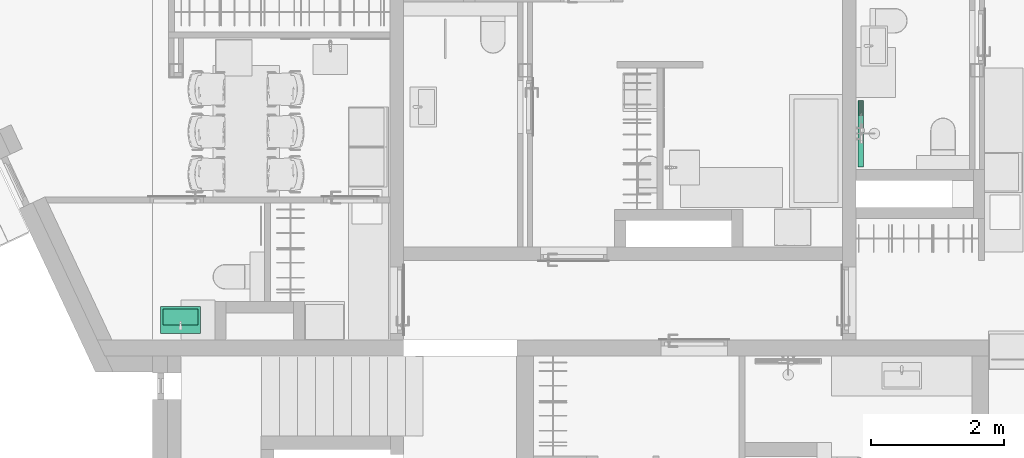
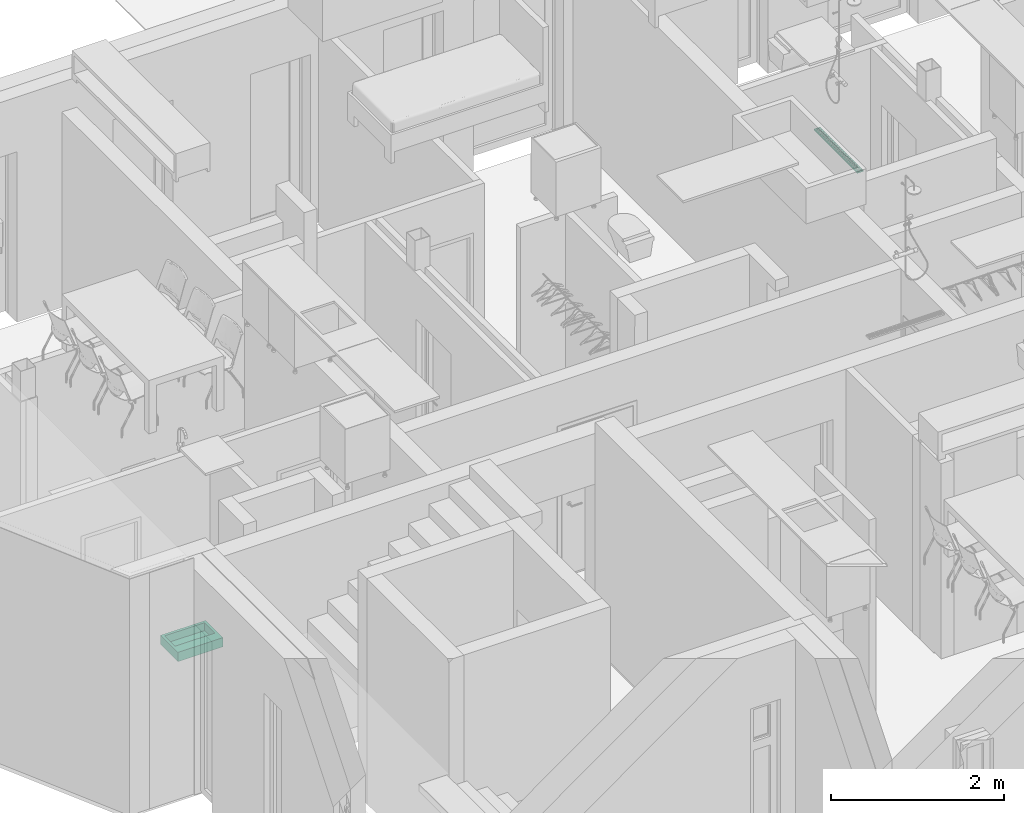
# One storey, part 17 of 68: 2 flow terminals.
"""IFC2X3 building model written with IfcOpenShell, lengths in millimetres."""

from ifc_helpers import new_model, entity, si_unit, converted_unit, direction, frame, origin, place, context, subcontext, project, spatial, faceted_brep, source, transform, mapped, material, type_object, type_shapes, element, save


model = new_model("IFC2X3")

# Units and contexts
model_context = context("Model", 3, precision=0.01, world=origin(), true_north=direction((6.123233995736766e-17, 1.0)))
plan_context = context("Plan", 3, precision=0.01, world=origin(), true_north=direction((6.123233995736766e-17, 1.0)))
body_context = subcontext(model_context, "Body", "Model", "MODEL_VIEW")
ifc_project = project(units=[si_unit("LENGTHUNIT", "METRE", prefix="MILLI"), converted_unit("PLANEANGLEUNIT", "DEGREE", entity("IfcPlaneAngleMeasure", 0.017453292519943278), si_unit("PLANEANGLEUNIT", "RADIAN"), dimensions=[0, 0, 0, 0, 0, 0, 0]), si_unit("AREAUNIT", "SQUARE_METRE")], contexts=[model_context, plan_context])

# Site, building, storey, space
site_placement = place(None, origin())
site = spatial("IfcSite", under=ifc_project, at=site_placement, Name="Default", CompositionType="ELEMENT")
building_placement = place(site_placement, origin())
building = spatial("IfcBuilding", under=site, at=building_placement, CompositionType="ELEMENT")
storey_placement = place(building_placement, frame((0.0, 0.0, 6295.0)))
storey = spatial("IfcBuildingStorey", under=building, at=storey_placement, Name="3K", CompositionType="ELEMENT", Elevation=6294.999999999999)
space_1_placement = place(storey_placement, origin())
space_1 = spatial("IfcSpace", under=storey, at=space_1_placement, Name="3-7.4", CompositionType="ELEMENT", InteriorOrExteriorSpace="INTERNAL")

# Flow terminal
ifc_material = material(Name="<Unnamed>")
distribution_element_type_1 = type_object("IfcDistributionElementType", Name="HR_Plumbing-fixtures_Drain_Channel_Generic_v1:Default", material=ifc_material)
shared_shape_1 = source(origin(), body_context, "Body", "Brep", [
    faceted_brep([(500.0, 80.0, 0.0), (-500.0, 80.0, 0.0), (-500.0, 0.0, 0.0), (500.0, 0.0, 0.0), (20.0, 70.0, 0.0), (25.0, 70.0, 0.0), (25.0, 10.0, 0.0), (20.0, 10.0, 0.0), (35.0, 70.0, 0.0), (40.0, 70.0, 0.0), (40.0, 10.0, 0.0), (35.0, 10.0, 0.0), (50.0, 70.0, 0.0), (55.0, 70.0, 0.0), (55.0, 10.0, 0.0), (50.0, 10.0, 0.0), (65.0, 70.0, 0.0), (70.0, 70.0, 0.0), (70.0, 10.0, 0.0), (65.0, 10.0, 0.0), (80.0, 70.0, 0.0), (85.0, 70.0, 0.0), (85.0, 10.0, 0.0), (80.0, 10.0, 0.0), (95.0, 70.0, 0.0), (100.0, 70.0, 0.0), (100.0, 10.0, 0.0), (95.0, 10.0, 0.0), (110.0, 70.0, 0.0), (115.0, 70.0, 0.0), (115.0, 10.0, 0.0), (110.0, 10.0, 0.0), (125.0, 70.0, 0.0), (130.0, 70.0, 0.0), (130.0, 10.0, 0.0), (125.0, 10.0, 0.0), (140.0, 70.0, 0.0), (145.0, 70.0, 0.0), (145.0, 10.0, 0.0), (140.0, 10.0, 0.0), (155.0, 70.0, 0.0), (160.0, 70.0, 0.0), (160.0, 10.0, 0.0), (155.0, 10.0, 0.0), (170.0, 70.0, 0.0), (175.0, 70.0, 0.0), (175.0, 10.0, 0.0), (170.0, 10.0, 0.0), (185.0, 70.0, 0.0), (190.0, 70.0, 0.0), (190.0, 10.0, 0.0), (185.0, 10.0, 0.0), (200.0, 70.0, 0.0), (205.0, 70.0, 0.0), (205.0, 10.0, 0.0), (200.0, 10.0, 0.0), (215.0, 70.0, 0.0), (220.0, 70.0, 0.0), (220.0, 10.0, 0.0), (215.0, 10.0, 0.0), (230.0, 70.0, 0.0), (235.0, 70.0, 0.0), (235.0, 10.0, 0.0), (230.0, 10.0, 0.0), (245.0, 70.0, 0.0), (250.0, 70.0, 0.0), (250.0, 10.0, 0.0), (245.0, 10.0, 0.0), (260.0, 70.0, 0.0), (265.0, 70.0, 0.0), (265.0, 10.0, 0.0), (260.0, 10.0, 0.0), (275.0, 70.0, 0.0), (280.0, 70.0, 0.0), (280.0, 10.0, 0.0), (275.0, 10.0, 0.0), (290.0, 70.0, 0.0), (295.0, 70.0, 0.0), (295.0, 10.0, 0.0), (290.0, 10.0, 0.0), (305.0, 70.0, 0.0), (310.0, 70.0, 0.0), (310.0, 10.0, 0.0), (305.0, 10.0, 0.0), (320.0, 70.0, 0.0), (325.0, 70.0, 0.0), (325.0, 10.0, 0.0), (320.0, 10.0, 0.0), (335.0, 70.0, 0.0), (340.0, 70.0, 0.0), (340.0, 10.0, 0.0), (335.0, 10.0, 0.0), (350.0, 70.0, 0.0), (355.0, 70.0, 0.0), (355.0, 10.0, 0.0), (350.0, 10.0, 0.0), (365.0, 70.0, 0.0), (370.0, 70.0, 0.0), (370.0, 10.0, 0.0), (365.0, 10.0, 0.0), (380.0, 70.0, 0.0), (385.0, 70.0, 0.0), (385.0, 10.0, 0.0), (380.0, 10.0, 0.0), (-25.0, 70.0, 0.0), (-20.0, 70.0, 0.0), (-20.0, 10.0, 0.0), (-25.0, 10.0, 0.0), (-40.0, 70.0, 0.0), (-35.0, 70.0, 0.0), (-35.0, 10.0, 0.0), (-40.0, 10.0, 0.0), (-55.0, 70.0, 0.0), (-50.0, 70.0, 0.0), (-50.0, 10.0, 0.0), (-55.0, 10.0, 0.0), (-70.0, 70.0, 0.0), (-65.0, 70.0, 0.0), (-65.0, 10.0, 0.0), (-70.0, 10.0, 0.0), (-85.0, 70.0, 0.0), (-80.0, 70.0, 0.0), (-80.0, 10.0, 0.0), (-85.0, 10.0, 0.0), (-100.0, 70.0, 0.0), (-95.0, 70.0, 0.0), (-95.0, 10.0, 0.0), (-100.0, 10.0, 0.0), (-115.0, 70.0, 0.0), (-110.0, 70.0, 0.0), (-110.0, 10.0, 0.0), (-115.0, 10.0, 0.0), (-130.0, 70.0, 0.0), (-125.0, 70.0, 0.0), (-125.0, 10.0, 0.0), (-130.0, 10.0, 0.0), (-145.0, 70.0, 0.0), (-140.0, 70.0, 0.0), (-140.0, 10.0, 0.0), (-145.0, 10.0, 0.0), (-160.0, 70.0, 0.0), (-155.0, 70.0, 0.0), (-155.0, 10.0, 0.0), (-160.0, 10.0, 0.0), (-175.0, 70.0, 0.0), (-170.0, 70.0, 0.0), (-170.0, 10.0, 0.0), (-175.0, 10.0, 0.0), (-190.0, 70.0, 0.0), (-185.0, 70.0, 0.0), (-185.0, 10.0, 0.0), (-190.0, 10.0, 0.0), (-205.0, 70.0, 0.0), (-200.0, 70.0, 0.0), (-200.0, 10.0, 0.0), (-205.0, 10.0, 0.0), (-220.0, 70.0, 0.0), (-215.0, 70.0, 0.0), (-215.0, 10.0, 0.0), (-220.0, 10.0, 0.0), (-235.0, 70.0, 0.0), (-230.0, 70.0, 0.0), (-230.0, 10.0, 0.0), (-235.0, 10.0, 0.0), (-250.0, 70.0, 0.0), (-245.0, 70.0, 0.0), (-245.0, 10.0, 0.0), (-250.0, 10.0, 0.0), (-265.0, 70.0, 0.0), (-260.0, 70.0, 0.0), (-260.0, 10.0, 0.0), (-265.0, 10.0, 0.0), (-280.0, 70.0, 0.0), (-275.0, 70.0, 0.0), (-275.0, 10.0, 0.0), (-280.0, 10.0, 0.0), (-295.0, 70.0, 0.0), (-290.0, 70.0, 0.0), (-290.0, 10.0, 0.0), (-295.0, 10.0, 0.0), (-310.0, 70.0, 0.0), (-305.0, 70.0, 0.0), (-305.0, 10.0, 0.0), (-310.0, 10.0, 0.0), (-325.0, 70.0, 0.0), (-320.0, 70.0, 0.0), (-320.0, 10.0, 0.0), (-325.0, 10.0, 0.0), (-340.0, 70.0, 0.0), (-335.0, 70.0, 0.0), (-335.0, 10.0, 0.0), (-340.0, 10.0, 0.0), (-355.0, 70.0, 0.0), (-350.0, 70.0, 0.0), (-350.0, 10.0, 0.0), (-355.0, 10.0, 0.0), (-370.0, 70.0, 0.0), (-365.0, 70.0, 0.0), (-365.0, 10.0, 0.0), (-370.0, 10.0, 0.0), (-385.0, 70.0, 0.0), (-380.0, 70.0, 0.0), (-380.0, 10.0, 0.0), (-385.0, 10.0, 0.0), (395.0, 70.0, 0.0), (400.0, 70.0, 0.0), (400.0, 10.0, 0.0), (395.0, 10.0, 0.0), (410.0, 70.0, 0.0), (415.0, 70.0, 0.0), (415.0, 10.0, 0.0), (410.0, 10.0, 0.0), (425.0, 70.0, 0.0), (430.0, 70.0, 0.0), (430.0, 10.0, 0.0), (425.0, 10.0, 0.0), (440.0, 70.0, 0.0), (445.0, 70.0, 0.0), (445.0, 10.0, 0.0), (440.0, 10.0, 0.0), (455.0, 70.0, 0.0), (460.0, 70.0, 0.0), (460.0, 10.0, 0.0), (455.0, 10.0, 0.0), (470.0, 70.0, 0.0), (475.0, 70.0, 0.0), (475.0, 10.0, 0.0), (470.0, 10.0, 0.0), (485.0, 70.0, 0.0), (490.0, 70.0, 0.0), (490.0, 10.0, 0.0), (485.0, 10.0, 0.0), (-400.0, 70.0, 0.0), (-395.0, 70.0, 0.0), (-395.0, 10.0, 0.0), (-400.0, 10.0, 0.0), (-415.0, 70.0, 0.0), (-410.0, 70.0, 0.0), (-410.0, 10.0, 0.0), (-415.0, 10.0, 0.0), (-430.0, 70.0, 0.0), (-425.0, 70.0, 0.0), (-425.0, 10.0, 0.0), (-430.0, 10.0, 0.0), (-445.0, 70.0, 0.0), (-440.0, 70.0, 0.0), (-440.0, 10.0, 0.0), (-445.0, 10.0, 0.0), (-460.0, 70.0, 0.0), (-455.0, 70.0, 0.0), (-455.0, 10.0, 0.0), (-460.0, 10.0, 0.0), (-475.0, 70.0, 0.0), (-470.0, 70.0, 0.0), (-470.0, 10.0, 0.0), (-475.0, 10.0, 0.0), (-490.0, 70.0, 0.0), (-485.0, 70.0, 0.0), (-485.0, 10.0, 0.0), (-490.0, 10.0, 0.0), (-10.0, 70.0, 0.0), (-5.0, 70.0, 0.0), (-5.0, 10.0, 0.0), (-10.0, 10.0, 0.0), (5.0, 70.0, 0.0), (10.0, 70.0, 0.0), (10.0, 10.0, 0.0), (5.0, 10.0, 0.0), (-500.0, 80.0, -20.0), (500.0, 80.0, -20.0), (500.0, 0.0, -20.0), (-500.0, 0.0, -20.0), (498.5000000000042, 78.500000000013, -20.0), (-498.49999999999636, 78.500000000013, -20.0), (-498.49999999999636, 1.5000000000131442, -20.0), (498.5000000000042, 1.5000000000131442, -20.0), (498.5000000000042, 78.500000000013, -1.5000000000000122), (498.5000000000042, 1.5000000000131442, -1.5000000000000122), (-498.49999999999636, 1.5000000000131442, -1.5000000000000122), (-498.49999999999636, 78.500000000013, -1.5000000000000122), (25.0, 70.0, -1.5000000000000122), (20.0, 70.0, -1.5000000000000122), (20.0, 10.0, -1.5000000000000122), (25.0, 10.0, -1.5000000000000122), (40.0, 70.0, -1.5000000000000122), (35.0, 70.0, -1.5000000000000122), (35.0, 10.0, -1.5000000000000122), (40.0, 10.0, -1.5000000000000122), (55.0, 70.0, -1.5000000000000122), (50.0, 70.0, -1.5000000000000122), (50.0, 10.0, -1.5000000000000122), (55.0, 10.0, -1.5000000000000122), (70.0, 70.0, -1.5000000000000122), (65.0, 70.0, -1.5000000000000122), (65.0, 10.0, -1.5000000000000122), (70.0, 10.0, -1.5000000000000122), (85.0, 70.0, -1.5000000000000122), (80.0, 70.0, -1.5000000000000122), (80.0, 10.0, -1.5000000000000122), (85.0, 10.0, -1.5000000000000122), (100.0, 70.0, -1.5000000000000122), (95.0, 70.0, -1.5000000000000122), (95.0, 10.0, -1.5000000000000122), (100.0, 10.0, -1.5000000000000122), (115.0, 70.0, -1.5000000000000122), (110.0, 70.0, -1.5000000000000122), (110.0, 10.0, -1.5000000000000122), (115.0, 10.0, -1.5000000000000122), (130.0, 70.0, -1.5000000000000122), (125.0, 70.0, -1.5000000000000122), (125.0, 10.0, -1.5000000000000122), (130.0, 10.0, -1.5000000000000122), (145.0, 70.0, -1.5000000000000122), (140.0, 70.0, -1.5000000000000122), (140.0, 10.0, -1.5000000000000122), (145.0, 10.0, -1.5000000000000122), (160.0, 70.0, -1.5000000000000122), (155.0, 70.0, -1.5000000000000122), (155.0, 10.0, -1.5000000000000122), (160.0, 10.0, -1.5000000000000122), (175.0, 70.0, -1.5000000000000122), (170.0, 70.0, -1.5000000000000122), (170.0, 10.0, -1.5000000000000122), (175.0, 10.0, -1.5000000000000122), (190.0, 70.0, -1.5000000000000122), (185.0, 70.0, -1.5000000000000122), (185.0, 10.0, -1.5000000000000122), (190.0, 10.0, -1.5000000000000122), (205.0, 70.0, -1.5000000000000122), (200.0, 70.0, -1.5000000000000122), (200.0, 10.0, -1.5000000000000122), (205.0, 10.0, -1.5000000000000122), (220.0, 70.0, -1.5000000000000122), (215.0, 70.0, -1.5000000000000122), (215.0, 10.0, -1.5000000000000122), (220.0, 10.0, -1.5000000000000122), (235.0, 70.0, -1.5000000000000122), (230.0, 70.0, -1.5000000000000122), (230.0, 10.0, -1.5000000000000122), (235.0, 10.0, -1.5000000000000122), (250.0, 70.0, -1.5000000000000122), (245.0, 70.0, -1.5000000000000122), (245.0, 10.0, -1.5000000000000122), (250.0, 10.0, -1.5000000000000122), (265.0, 70.0, -1.5000000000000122), (260.0, 70.0, -1.5000000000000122), (260.0, 10.0, -1.5000000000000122), (265.0, 10.0, -1.5000000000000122), (280.0, 70.0, -1.5000000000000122), (275.0, 70.0, -1.5000000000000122), (275.0, 10.0, -1.5000000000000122), (280.0, 10.0, -1.5000000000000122), (295.0, 70.0, -1.5000000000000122), (290.0, 70.0, -1.5000000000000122), (290.0, 10.0, -1.5000000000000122), (295.0, 10.0, -1.5000000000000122), (310.0, 70.0, -1.5000000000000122), (305.0, 70.0, -1.5000000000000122), (305.0, 10.0, -1.5000000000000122), (310.0, 10.0, -1.5000000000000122), (325.0, 70.0, -1.5000000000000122), (320.0, 70.0, -1.5000000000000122), (320.0, 10.0, -1.5000000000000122), (325.0, 10.0, -1.5000000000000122), (340.0, 70.0, -1.5000000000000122), (335.0, 70.0, -1.5000000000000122), (335.0, 10.0, -1.5000000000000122), (340.0, 10.0, -1.5000000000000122), (355.0, 70.0, -1.5000000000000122), (350.0, 70.0, -1.5000000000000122), (350.0, 10.0, -1.5000000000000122), (355.0, 10.0, -1.5000000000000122), (370.0, 70.0, -1.5000000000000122), (365.0, 70.0, -1.5000000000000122), (365.0, 10.0, -1.5000000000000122), (370.0, 10.0, -1.5000000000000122), (385.0, 70.0, -1.5000000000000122), (380.0, 70.0, -1.5000000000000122), (380.0, 10.0, -1.5000000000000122), (385.0, 10.0, -1.5000000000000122), (-20.0, 70.0, -1.5000000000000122), (-25.0, 70.0, -1.5000000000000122), (-25.0, 10.0, -1.5000000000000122), (-20.0, 10.0, -1.5000000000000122), (-35.0, 70.0, -1.5000000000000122), (-40.0, 70.0, -1.5000000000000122), (-40.0, 10.0, -1.5000000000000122), (-35.0, 10.0, -1.5000000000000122), (-50.0, 70.0, -1.5000000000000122), (-55.0, 70.0, -1.5000000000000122), (-55.0, 10.0, -1.5000000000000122), (-50.0, 10.0, -1.5000000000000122), (-65.0, 70.0, -1.5000000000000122), (-70.0, 70.0, -1.5000000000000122), (-70.0, 10.0, -1.5000000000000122), (-65.0, 10.0, -1.5000000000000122), (-80.0, 70.0, -1.5000000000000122), (-85.0, 70.0, -1.5000000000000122), (-85.0, 10.0, -1.5000000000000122), (-80.0, 10.0, -1.5000000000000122), (-95.0, 70.0, -1.5000000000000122), (-100.0, 70.0, -1.5000000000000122), (-100.0, 10.0, -1.5000000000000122), (-95.0, 10.0, -1.5000000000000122), (-110.0, 70.0, -1.5000000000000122), (-115.0, 70.0, -1.5000000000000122), (-115.0, 10.0, -1.5000000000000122), (-110.0, 10.0, -1.5000000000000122), (-125.0, 70.0, -1.5000000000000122), (-130.0, 70.0, -1.5000000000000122), (-130.0, 10.0, -1.5000000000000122), (-125.0, 10.0, -1.5000000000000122), (-140.0, 70.0, -1.5000000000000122), (-145.0, 70.0, -1.5000000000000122), (-145.0, 10.0, -1.5000000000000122), (-140.0, 10.0, -1.5000000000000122), (-155.0, 70.0, -1.5000000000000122), (-160.0, 70.0, -1.5000000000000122), (-160.0, 10.0, -1.5000000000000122), (-155.0, 10.0, -1.5000000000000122), (-170.0, 70.0, -1.5000000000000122), (-175.0, 70.0, -1.5000000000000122), (-175.0, 10.0, -1.5000000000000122), (-170.0, 10.0, -1.5000000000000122), (-185.0, 70.0, -1.5000000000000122), (-190.0, 70.0, -1.5000000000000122), (-190.0, 10.0, -1.5000000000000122), (-185.0, 10.0, -1.5000000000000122), (-200.0, 70.0, -1.5000000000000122), (-205.0, 70.0, -1.5000000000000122), (-205.0, 10.0, -1.5000000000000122), (-200.0, 10.0, -1.5000000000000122), (-215.0, 70.0, -1.5000000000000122), (-220.0, 70.0, -1.5000000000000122), (-220.0, 10.0, -1.5000000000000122), (-215.0, 10.0, -1.5000000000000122), (-230.0, 70.0, -1.5000000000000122), (-235.0, 70.0, -1.5000000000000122), (-235.0, 10.0, -1.5000000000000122), (-230.0, 10.0, -1.5000000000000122), (-245.0, 70.0, -1.5000000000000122), (-250.0, 70.0, -1.5000000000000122), (-250.0, 10.0, -1.5000000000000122), (-245.0, 10.0, -1.5000000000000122), (-260.0, 70.0, -1.5000000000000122), (-265.0, 70.0, -1.5000000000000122), (-265.0, 10.0, -1.5000000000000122), (-260.0, 10.0, -1.5000000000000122), (-275.0, 70.0, -1.5000000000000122), (-280.0, 70.0, -1.5000000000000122), (-280.0, 10.0, -1.5000000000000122), (-275.0, 10.0, -1.5000000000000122), (-290.0, 70.0, -1.5000000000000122), (-295.0, 70.0, -1.5000000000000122), (-295.0, 10.0, -1.5000000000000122), (-290.0, 10.0, -1.5000000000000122), (-305.0, 70.0, -1.5000000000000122), (-310.0, 70.0, -1.5000000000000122), (-310.0, 10.0, -1.5000000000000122), (-305.0, 10.0, -1.5000000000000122), (-320.0, 70.0, -1.5000000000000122), (-325.0, 70.0, -1.5000000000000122), (-325.0, 10.0, -1.5000000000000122), (-320.0, 10.0, -1.5000000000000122), (-335.0, 70.0, -1.5000000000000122), (-340.0, 70.0, -1.5000000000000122), (-340.0, 10.0, -1.5000000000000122), (-335.0, 10.0, -1.5000000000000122), (-350.0, 70.0, -1.5000000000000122), (-355.0, 70.0, -1.5000000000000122), (-355.0, 10.0, -1.5000000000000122), (-350.0, 10.0, -1.5000000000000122), (-365.0, 70.0, -1.5000000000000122), (-370.0, 70.0, -1.5000000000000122), (-370.0, 10.0, -1.5000000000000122), (-365.0, 10.0, -1.5000000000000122), (-380.0, 70.0, -1.5000000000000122), (-385.0, 70.0, -1.5000000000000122), (-385.0, 10.0, -1.5000000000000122), (-380.0, 10.0, -1.5000000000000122), (400.0, 70.0, -1.5000000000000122), (395.0, 70.0, -1.5000000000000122), (395.0, 10.0, -1.5000000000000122), (400.0, 10.0, -1.5000000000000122), (415.0, 70.0, -1.5000000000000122), (410.0, 70.0, -1.5000000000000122), (410.0, 10.0, -1.5000000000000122), (415.0, 10.0, -1.5000000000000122), (430.0, 70.0, -1.5000000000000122), (425.0, 70.0, -1.5000000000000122), (425.0, 10.0, -1.5000000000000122), (430.0, 10.0, -1.5000000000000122), (445.0, 70.0, -1.5000000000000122), (440.0, 70.0, -1.5000000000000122), (440.0, 10.0, -1.5000000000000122), (445.0, 10.0, -1.5000000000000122), (460.0, 70.0, -1.5000000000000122), (455.0, 70.0, -1.5000000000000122), (455.0, 10.0, -1.5000000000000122), (460.0, 10.0, -1.5000000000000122), (475.0, 70.0, -1.5000000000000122), (470.0, 70.0, -1.5000000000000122), (470.0, 10.0, -1.5000000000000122), (475.0, 10.0, -1.5000000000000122), (490.0, 70.0, -1.5000000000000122), (485.0, 70.0, -1.5000000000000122), (485.0, 10.0, -1.5000000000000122), (490.0, 10.0, -1.5000000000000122), (-395.0, 70.0, -1.5000000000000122), (-400.0, 70.0, -1.5000000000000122), (-400.0, 10.0, -1.5000000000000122), (-395.0, 10.0, -1.5000000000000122), (-410.0, 70.0, -1.5000000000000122), (-415.0, 70.0, -1.5000000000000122), (-415.0, 10.0, -1.5000000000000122), (-410.0, 10.0, -1.5000000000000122), (-425.0, 70.0, -1.5000000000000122), (-430.0, 70.0, -1.5000000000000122), (-430.0, 10.0, -1.5000000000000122), (-425.0, 10.0, -1.5000000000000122), (-440.0, 70.0, -1.5000000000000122), (-445.0, 70.0, -1.5000000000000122), (-445.0, 10.0, -1.5000000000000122), (-440.0, 10.0, -1.5000000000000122), (-455.0, 70.0, -1.5000000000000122), (-460.0, 70.0, -1.5000000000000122), (-460.0, 10.0, -1.5000000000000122), (-455.0, 10.0, -1.5000000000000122), (-470.0, 70.0, -1.5000000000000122), (-475.0, 70.0, -1.5000000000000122), (-475.0, 10.0, -1.5000000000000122), (-470.0, 10.0, -1.5000000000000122), (-485.0, 70.0, -1.5000000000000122), (-490.0, 70.0, -1.5000000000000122), (-490.0, 10.0, -1.5000000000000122), (-485.0, 10.0, -1.5000000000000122), (-5.0, 70.0, -1.5000000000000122), (-10.0, 70.0, -1.5000000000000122), (-10.0, 10.0, -1.5000000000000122), (-5.0, 10.0, -1.5000000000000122), (10.0, 70.0, -1.5000000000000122), (5.0, 70.0, -1.5000000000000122), (5.0, 10.0, -1.5000000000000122), (10.0, 10.0, -1.5000000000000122)], [[[0, 1, 2, 3], [4, 5, 6, 7], [8, 9, 10, 11], [12, 13, 14, 15], [16, 17, 18, 19], [20, 21, 22, 23], [24, 25, 26, 27], [28, 29, 30, 31], [32, 33, 34, 35], [36, 37, 38, 39], [40, 41, 42, 43], [44, 45, 46, 47], [48, 49, 50, 51], [52, 53, 54, 55], [56, 57, 58, 59], [60, 61, 62, 63], [64, 65, 66, 67], [68, 69, 70, 71], [72, 73, 74, 75], [76, 77, 78, 79], [80, 81, 82, 83], [84, 85, 86, 87], [88, 89, 90, 91], [92, 93, 94, 95], [96, 97, 98, 99], [100, 101, 102, 103], [104, 105, 106, 107], [108, 109, 110, 111], [112, 113, 114, 115], [116, 117, 118, 119], [120, 121, 122, 123], [124, 125, 126, 127], [128, 129, 130, 131], [132, 133, 134, 135], [136, 137, 138, 139], [140, 141, 142, 143], [144, 145, 146, 147], [148, 149, 150, 151], [152, 153, 154, 155], [156, 157, 158, 159], [160, 161, 162, 163], [164, 165, 166, 167], [168, 169, 170, 171], [172, 173, 174, 175], [176, 177, 178, 179], [180, 181, 182, 183], [184, 185, 186, 187], [188, 189, 190, 191], [192, 193, 194, 195], [196, 197, 198, 199], [200, 201, 202, 203], [204, 205, 206, 207], [208, 209, 210, 211], [212, 213, 214, 215], [216, 217, 218, 219], [220, 221, 222, 223], [224, 225, 226, 227], [228, 229, 230, 231], [232, 233, 234, 235], [236, 237, 238, 239], [240, 241, 242, 243], [244, 245, 246, 247], [248, 249, 250, 251], [252, 253, 254, 255], [256, 257, 258, 259], [260, 261, 262, 263], [264, 265, 266, 267]], [[268, 269, 270, 271], [272, 273, 274, 275]], [[1, 0, 269, 268]], [[2, 1, 268, 271]], [[3, 2, 271, 270]], [[0, 3, 270, 269]], [[276, 277, 278, 279], [280, 281, 282, 283], [284, 285, 286, 287], [288, 289, 290, 291], [292, 293, 294, 295], [296, 297, 298, 299], [300, 301, 302, 303], [304, 305, 306, 307], [308, 309, 310, 311], [312, 313, 314, 315], [316, 317, 318, 319], [320, 321, 322, 323], [324, 325, 326, 327], [328, 329, 330, 331], [332, 333, 334, 335], [336, 337, 338, 339], [340, 341, 342, 343], [344, 345, 346, 347], [348, 349, 350, 351], [352, 353, 354, 355], [356, 357, 358, 359], [360, 361, 362, 363], [364, 365, 366, 367], [368, 369, 370, 371], [372, 373, 374, 375], [376, 377, 378, 379], [380, 381, 382, 383], [384, 385, 386, 387], [388, 389, 390, 391], [392, 393, 394, 395], [396, 397, 398, 399], [400, 401, 402, 403], [404, 405, 406, 407], [408, 409, 410, 411], [412, 413, 414, 415], [416, 417, 418, 419], [420, 421, 422, 423], [424, 425, 426, 427], [428, 429, 430, 431], [432, 433, 434, 435], [436, 437, 438, 439], [440, 441, 442, 443], [444, 445, 446, 447], [448, 449, 450, 451], [452, 453, 454, 455], [456, 457, 458, 459], [460, 461, 462, 463], [464, 465, 466, 467], [468, 469, 470, 471], [472, 473, 474, 475], [476, 477, 478, 479], [480, 481, 482, 483], [484, 485, 486, 487], [488, 489, 490, 491], [492, 493, 494, 495], [496, 497, 498, 499], [500, 501, 502, 503], [504, 505, 506, 507], [508, 509, 510, 511], [512, 513, 514, 515], [516, 517, 518, 519], [520, 521, 522, 523], [524, 525, 526, 527], [528, 529, 530, 531], [532, 533, 534, 535], [536, 537, 538, 539], [540, 541, 542, 543]], [[276, 279, 273, 272]], [[279, 278, 274, 273]], [[278, 277, 275, 274]], [[277, 276, 272, 275]], [[5, 4, 281, 280]], [[4, 7, 282, 281]], [[7, 6, 283, 282]], [[6, 5, 280, 283]], [[9, 8, 285, 284]], [[8, 11, 286, 285]], [[11, 10, 287, 286]], [[10, 9, 284, 287]], [[13, 12, 289, 288]], [[12, 15, 290, 289]], [[15, 14, 291, 290]], [[14, 13, 288, 291]], [[17, 16, 293, 292]], [[16, 19, 294, 293]], [[19, 18, 295, 294]], [[18, 17, 292, 295]], [[21, 20, 297, 296]], [[20, 23, 298, 297]], [[23, 22, 299, 298]], [[22, 21, 296, 299]], [[25, 24, 301, 300]], [[24, 27, 302, 301]], [[27, 26, 303, 302]], [[26, 25, 300, 303]], [[29, 28, 305, 304]], [[28, 31, 306, 305]], [[31, 30, 307, 306]], [[30, 29, 304, 307]], [[33, 32, 309, 308]], [[32, 35, 310, 309]], [[35, 34, 311, 310]], [[34, 33, 308, 311]], [[37, 36, 313, 312]], [[36, 39, 314, 313]], [[39, 38, 315, 314]], [[38, 37, 312, 315]], [[41, 40, 317, 316]], [[40, 43, 318, 317]], [[43, 42, 319, 318]], [[42, 41, 316, 319]], [[45, 44, 321, 320]], [[44, 47, 322, 321]], [[47, 46, 323, 322]], [[46, 45, 320, 323]], [[49, 48, 325, 324]], [[48, 51, 326, 325]], [[51, 50, 327, 326]], [[50, 49, 324, 327]], [[53, 52, 329, 328]], [[52, 55, 330, 329]], [[55, 54, 331, 330]], [[54, 53, 328, 331]], [[57, 56, 333, 332]], [[56, 59, 334, 333]], [[59, 58, 335, 334]], [[58, 57, 332, 335]], [[61, 60, 337, 336]], [[60, 63, 338, 337]], [[63, 62, 339, 338]], [[62, 61, 336, 339]], [[65, 64, 341, 340]], [[64, 67, 342, 341]], [[67, 66, 343, 342]], [[66, 65, 340, 343]], [[69, 68, 345, 344]], [[68, 71, 346, 345]], [[71, 70, 347, 346]], [[70, 69, 344, 347]], [[73, 72, 349, 348]], [[72, 75, 350, 349]], [[75, 74, 351, 350]], [[74, 73, 348, 351]], [[77, 76, 353, 352]], [[76, 79, 354, 353]], [[79, 78, 355, 354]], [[78, 77, 352, 355]], [[81, 80, 357, 356]], [[80, 83, 358, 357]], [[83, 82, 359, 358]], [[82, 81, 356, 359]], [[85, 84, 361, 360]], [[84, 87, 362, 361]], [[87, 86, 363, 362]], [[86, 85, 360, 363]], [[89, 88, 365, 364]], [[88, 91, 366, 365]], [[91, 90, 367, 366]], [[90, 89, 364, 367]], [[93, 92, 369, 368]], [[92, 95, 370, 369]], [[95, 94, 371, 370]], [[94, 93, 368, 371]], [[97, 96, 373, 372]], [[96, 99, 374, 373]], [[99, 98, 375, 374]], [[98, 97, 372, 375]], [[101, 100, 377, 376]], [[100, 103, 378, 377]], [[103, 102, 379, 378]], [[102, 101, 376, 379]], [[105, 104, 381, 380]], [[104, 107, 382, 381]], [[107, 106, 383, 382]], [[106, 105, 380, 383]], [[109, 108, 385, 384]], [[108, 111, 386, 385]], [[111, 110, 387, 386]], [[110, 109, 384, 387]], [[113, 112, 389, 388]], [[112, 115, 390, 389]], [[115, 114, 391, 390]], [[114, 113, 388, 391]], [[117, 116, 393, 392]], [[116, 119, 394, 393]], [[119, 118, 395, 394]], [[118, 117, 392, 395]], [[121, 120, 397, 396]], [[120, 123, 398, 397]], [[123, 122, 399, 398]], [[122, 121, 396, 399]], [[125, 124, 401, 400]], [[124, 127, 402, 401]], [[127, 126, 403, 402]], [[126, 125, 400, 403]], [[129, 128, 405, 404]], [[128, 131, 406, 405]], [[131, 130, 407, 406]], [[130, 129, 404, 407]], [[133, 132, 409, 408]], [[132, 135, 410, 409]], [[135, 134, 411, 410]], [[134, 133, 408, 411]], [[137, 136, 413, 412]], [[136, 139, 414, 413]], [[139, 138, 415, 414]], [[138, 137, 412, 415]], [[141, 140, 417, 416]], [[140, 143, 418, 417]], [[143, 142, 419, 418]], [[142, 141, 416, 419]], [[145, 144, 421, 420]], [[144, 147, 422, 421]], [[147, 146, 423, 422]], [[146, 145, 420, 423]], [[149, 148, 425, 424]], [[148, 151, 426, 425]], [[151, 150, 427, 426]], [[150, 149, 424, 427]], [[153, 152, 429, 428]], [[152, 155, 430, 429]], [[155, 154, 431, 430]], [[154, 153, 428, 431]], [[157, 156, 433, 432]], [[156, 159, 434, 433]], [[159, 158, 435, 434]], [[158, 157, 432, 435]], [[161, 160, 437, 436]], [[160, 163, 438, 437]], [[163, 162, 439, 438]], [[162, 161, 436, 439]], [[165, 164, 441, 440]], [[164, 167, 442, 441]], [[167, 166, 443, 442]], [[166, 165, 440, 443]], [[169, 168, 445, 444]], [[168, 171, 446, 445]], [[171, 170, 447, 446]], [[170, 169, 444, 447]], [[173, 172, 449, 448]], [[172, 175, 450, 449]], [[175, 174, 451, 450]], [[174, 173, 448, 451]], [[177, 176, 453, 452]], [[176, 179, 454, 453]], [[179, 178, 455, 454]], [[178, 177, 452, 455]], [[181, 180, 457, 456]], [[180, 183, 458, 457]], [[183, 182, 459, 458]], [[182, 181, 456, 459]], [[185, 184, 461, 460]], [[184, 187, 462, 461]], [[187, 186, 463, 462]], [[186, 185, 460, 463]], [[189, 188, 465, 464]], [[188, 191, 466, 465]], [[191, 190, 467, 466]], [[190, 189, 464, 467]], [[193, 192, 469, 468]], [[192, 195, 470, 469]], [[195, 194, 471, 470]], [[194, 193, 468, 471]], [[197, 196, 473, 472]], [[196, 199, 474, 473]], [[199, 198, 475, 474]], [[198, 197, 472, 475]], [[201, 200, 477, 476]], [[200, 203, 478, 477]], [[203, 202, 479, 478]], [[202, 201, 476, 479]], [[205, 204, 481, 480]], [[204, 207, 482, 481]], [[207, 206, 483, 482]], [[206, 205, 480, 483]], [[209, 208, 485, 484]], [[208, 211, 486, 485]], [[211, 210, 487, 486]], [[210, 209, 484, 487]], [[213, 212, 489, 488]], [[212, 215, 490, 489]], [[215, 214, 491, 490]], [[214, 213, 488, 491]], [[217, 216, 493, 492]], [[216, 219, 494, 493]], [[219, 218, 495, 494]], [[218, 217, 492, 495]], [[221, 220, 497, 496]], [[220, 223, 498, 497]], [[223, 222, 499, 498]], [[222, 221, 496, 499]], [[225, 224, 501, 500]], [[224, 227, 502, 501]], [[227, 226, 503, 502]], [[226, 225, 500, 503]], [[229, 228, 505, 504]], [[228, 231, 506, 505]], [[231, 230, 507, 506]], [[230, 229, 504, 507]], [[233, 232, 509, 508]], [[232, 235, 510, 509]], [[235, 234, 511, 510]], [[234, 233, 508, 511]], [[237, 236, 513, 512]], [[236, 239, 514, 513]], [[239, 238, 515, 514]], [[238, 237, 512, 515]], [[241, 240, 517, 516]], [[240, 243, 518, 517]], [[243, 242, 519, 518]], [[242, 241, 516, 519]], [[245, 244, 521, 520]], [[244, 247, 522, 521]], [[247, 246, 523, 522]], [[246, 245, 520, 523]], [[249, 248, 525, 524]], [[248, 251, 526, 525]], [[251, 250, 527, 526]], [[250, 249, 524, 527]], [[253, 252, 529, 528]], [[252, 255, 530, 529]], [[255, 254, 531, 530]], [[254, 253, 528, 531]], [[257, 256, 533, 532]], [[256, 259, 534, 533]], [[259, 258, 535, 534]], [[258, 257, 532, 535]], [[261, 260, 537, 536]], [[260, 263, 538, 537]], [[263, 262, 539, 538]], [[262, 261, 536, 539]], [[265, 264, 541, 540]], [[264, 267, 542, 541]], [[267, 266, 543, 542]], [[266, 265, 540, 543]]]),
])
type_shapes(distribution_element_type_1, [shared_shape_1])
flow_terminal_1_placement = place(space_1_placement, frame((10185.0, 9750.0, 3170.000076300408), z_axis=(0.0, 0.0, 1.0), x_axis=(0.0, -1.0, 0.0)))
element("IfcFlowTerminal", 1, at=flow_terminal_1_placement, inside=space_1, type_object=distribution_element_type_1, material=ifc_material, Name="HR_Plumbing-fixtures_Drain_Channel_Generic_v1:Default", ObjectType="HR_Plumbing-fixtures_Drain_Channel_Generic_v1:Default", context=body_context, shape_type="MappedRepresentation", body=[
    mapped(shared_shape_1, transform((0.0, 0.0, 0.0), scale=1.0)),
])

# Space
space_2_placement = place(storey_placement, origin())
space_2 = spatial("IfcSpace", under=storey, at=space_2_placement, Name="3-5.4", CompositionType="ELEMENT", InteriorOrExteriorSpace="INTERNAL")

# Flow terminal
distribution_element_type_2 = type_object("IfcDistributionElementType", Name="HR_Plumbing-fixtures_Sink_Generic_Bathroom_v1:600 x 400 mm", material=ifc_material)
shared_shape_2 = source(origin(), body_context, "Body", "Brep", [
    faceted_brep([(300.0, 0.0, -3325.0), (-300.0, 0.0, -3325.0), (-300.0, -400.0, -3325.0), (300.0, -400.0, -3325.0), (-265.0, -125.0, -3325.0), (265.0, -125.0, -3325.0), (265.0, -365.0, -3325.0), (-265.0, -365.0, -3325.0), (300.0, 0.0, -3455.0), (300.0, -400.0, -3455.0), (-300.0, -400.0, -3455.0), (-300.0, 0.0, -3455.0), (265.0, -125.0, -3435.0), (-265.0, -125.0, -3435.0), (-265.0, -365.0, -3435.0), (265.0, -365.0, -3435.0)], [[[0, 1, 2, 3], [4, 5, 6, 7]], [[8, 9, 10, 11]], [[1, 0, 8, 11]], [[2, 1, 11, 10]], [[3, 2, 10, 9]], [[0, 3, 9, 8]], [[12, 13, 14, 15]], [[13, 12, 5, 4]], [[14, 13, 4, 7]], [[15, 14, 7, 6]], [[12, 15, 6, 5]]]),
])
type_shapes(distribution_element_type_2, [shared_shape_2])
flow_terminal_2_placement = place(space_2_placement, frame((-7.503232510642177, 6745.000000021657, 4925.0), z_axis=(0.0, 0.0, 1.0), x_axis=(-1.0, 0.0, 0.0)))
element("IfcFlowTerminal", 2, at=flow_terminal_2_placement, inside=space_2, type_object=distribution_element_type_2, material=ifc_material, Name="HR_Plumbing-fixtures_Sink_Generic_Bathroom_v1:600 x 400 mm", ObjectType="HR_Plumbing-fixtures_Sink_Generic_Bathroom_v1:600 x 400 mm", context=body_context, shape_type="MappedRepresentation", body=[
    mapped(shared_shape_2, transform((0.0, 0.0, 0.0), scale=1.0)),
])

save(model, "model.ifc")
